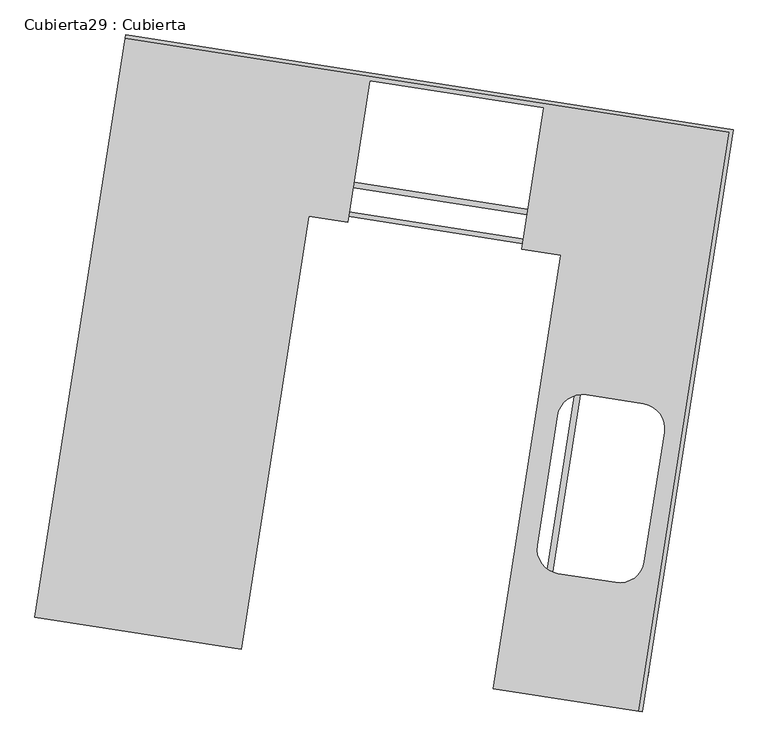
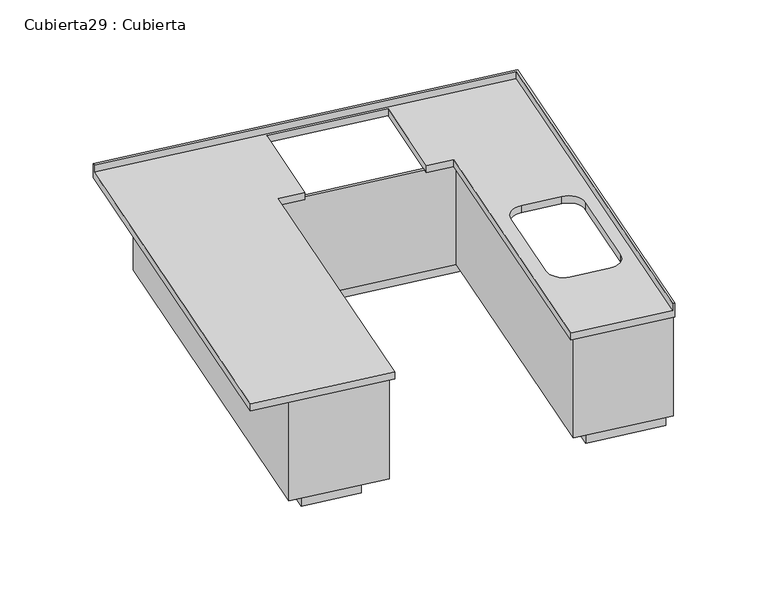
"""IFC4 building model written with IfcOpenShell, lengths in millimetres: furniture geometry, Cubierta29 : Cubierta."""

from ifc_helpers import new_model, si_unit, frame, origin, place, context, project, spatial, polyline, circle_curve, outline, extrude, source, transform, mapped, element, save
from ifc_brep_helpers import plane_surface, revolved_surface, advanced_brep


def cubierta29_cubierta_24a9afea(model_context):
    return source(origin(), model_context, "Body", "SolidModel", [
        extrude(outline(polyline([(-32353.0182652, -76038.1032735), (-32061.939608, -74170.6523073), (-33445.2366403, -73955.038484), (-33736.3152974, -75822.4894504), (-34106.8412842, -75764.7357484), (-33738.75769, -73403.2501277), (-33714.0559573, -73407.1003745), (-34078.2893047, -75743.8842625), (-33757.1667832, -75793.9374708), (-33466.0881262, -73926.4865045), (-32033.3876284, -74149.8008214), (-32324.4662857, -76017.2517877), (-31855.1333645, -76090.4064776), (-31858.9836113, -76115.1082103), (-32353.0182652, -76038.1032735)])), frame((0.0, 0.0, 12800.0), z_axis=(0.0, 0.0, 1.0), x_axis=(1.0, 0.0, 0.0)), (0.0, 0.0, 1.0), 150.0),
        extrude(outline(polyline([(-33632.057868, -75965.2493482), (-34249.601182, -75868.9931777), (-33862.2663536, -73383.9988935), (-33842.5049674, -73387.0790909), (-34226.7595984, -75852.311989), (-33648.7390567, -75942.4077646), (-33357.6603996, -74074.9567982), (-32181.8579221, -74258.228548), (-32472.9365794, -76125.6795143), (-31875.1546481, -76218.8554879), (-31878.2348456, -76238.6168741), (-32495.7781631, -76142.360703), (-32204.6995058, -74274.9097367), (-33340.9792109, -74097.7983818), (-33632.057868, -75965.2493482)])), frame((0.0, 0.0, 12950.0), z_axis=(0.0, 0.0, 1.0), x_axis=(1.0, 0.0, 0.0)), (0.0, 0.0, 1.0), 720.0),
        advanced_brep(
        [(-34500.4687559, -75855.192442, 13720.0), (-33611.2063821, -75993.8013277, 13720.0), (-33320.1277251, -74126.3503614, 13720.0), (-33152.1559425, -74152.5320399, 13720.0), (-33057.1726711, -73543.1551667, 13720.0), (-32306.2399965, -73660.2026707, 13720.0), (-32401.2232679, -74269.579544, 13720.0), (-32233.2514855, -74295.7612225, 13720.0), (-32524.3301425, -76163.2121888, 13720.0), (-31896.906132, -76261.0084585, 13720.0), (-31508.031205, -73766.1334813, 13720.0), (-34111.5938289, -73360.3174647, 13720.0), (-32333.8733798, -75545.1707633, 13720.0), (-32246.8578012, -74986.9116039, 13720.0), (-32124.6553287, -74897.6672444, 13720.0), (-31877.6380015, -74936.1697128, 13720.0), (-31788.3936419, -75058.3721853, 13720.0), (-31875.4092206, -75616.6313447, 13720.0), (-31997.6116931, -75705.8757043, 13720.0), (-32244.6290203, -75667.3732359, 13720.0), (-34109.2836808, -73345.4964249, 13670.0), (-31490.9000173, -73753.6225897, 13670.0), (-31882.0850924, -76263.3186066, 13670.0), (-32524.3301425, -76163.2121888, 13670.0), (-32233.2514855, -74295.7612225, 13670.0), (-32401.2232679, -74269.579544, 13670.0), (-32306.2399965, -73660.2026707, 13670.0), (-33057.1726711, -73543.1551667, 13670.0), (-33152.1559425, -74152.5320399, 13670.0), (-33320.1277251, -74126.3503614, 13670.0), (-33611.2063821, -75993.8013277, 13670.0), (-34500.4687559, -75855.192442, 13670.0), (-32333.8733798, -75545.1707633, 13670.0), (-32244.6290203, -75667.3732359, 13670.0), (-31997.6116931, -75705.8757043, 13670.0), (-31875.4092206, -75616.6313447, 13670.0), (-31788.3936419, -75058.3721853, 13670.0), (-31877.6380015, -74936.1697128, 13670.0), (-32124.6553287, -74897.6672444, 13670.0), (-32246.8578012, -74986.9116039, 13670.0), (-34111.5938289, -73360.3174647, 13770.0), (-34109.2836808, -73345.496425, 13770.0), (-31508.031205, -73766.1334813, 13770.0), (-31896.906132, -76261.0084585, 13770.0), (-31882.0850924, -76263.3186066, 13770.0), (-31490.9000173, -73753.6225898, 13770.0)],
        [
            (0, 1),
            (1, 2),
            (2, 3),
            (3, 4),
            (4, 5),
            (5, 6),
            (6, 7),
            (7, 8),
            (8, 9),
            (9, 10),
            (10, 11),
            (11, 0),
            (12, 13),
            (13, 14, circle_curve(frame((-32141.1343852, -75003.3906604, 13720.0), z_axis=(0.0, 0.0, -1.0), x_axis=(-0.15400987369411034, -0.9880693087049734, 0.0)), 107.0)),
            (14, 15),
            (15, 16, circle_curve(frame((-31894.117058, -75041.8931288, 13720.0), z_axis=(0.0, 0.0, -1.0), x_axis=(-0.15400987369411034, -0.9880693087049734, 0.0)), 107.0)),
            (16, 17),
            (17, 18, circle_curve(frame((-31981.1326366, -75600.1522882, 13720.0), z_axis=(0.0, 0.0, -1.0), x_axis=(-0.15400987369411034, -0.9880693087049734, 0.0)), 107.0)),
            (18, 19),
            (19, 12, circle_curve(frame((-32228.1499638, -75561.6498198, 13720.0), z_axis=(0.0, 0.0, -1.0), x_axis=(-0.15400987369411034, -0.9880693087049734, 0.0)), 107.0)),
            (20, 21),
            (21, 22),
            (22, 23),
            (23, 24),
            (24, 25),
            (25, 26),
            (26, 27),
            (27, 28),
            (28, 29),
            (29, 30),
            (30, 31),
            (31, 20),
            (32, 33, circle_curve(frame((-32228.1499638, -75561.6498198, 13670.0), z_axis=(0.0, 0.0, 1.0), x_axis=(-0.15400987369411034, -0.9880693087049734, 0.0)), 107.0)),
            (33, 34),
            (34, 35, circle_curve(frame((-31981.1326366, -75600.1522882, 13670.0), z_axis=(0.0, 0.0, 1.0), x_axis=(-0.15400987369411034, -0.9880693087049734, 0.0)), 107.0)),
            (35, 36),
            (36, 37, circle_curve(frame((-31894.117058, -75041.8931288, 13670.0), z_axis=(0.0, 0.0, 1.0), x_axis=(-0.15400987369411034, -0.9880693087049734, 0.0)), 107.0)),
            (37, 38),
            (38, 39, circle_curve(frame((-32141.1343852, -75003.3906604, 13670.0), z_axis=(0.0, 0.0, 1.0), x_axis=(-0.15400987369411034, -0.9880693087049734, 0.0)), 107.0)),
            (39, 32),
            (31, 0),
            (11, 40),
            (40, 41),
            (41, 20),
            (40, 42),
            (42, 43),
            (43, 44),
            (44, 45),
            (45, 41),
            (10, 42),
            (45, 21),
            (43, 9),
            (8, 23),
            (22, 44),
            (2, 29),
            (28, 3),
            (1, 30),
            (6, 25),
            (24, 7),
            (5, 26),
            (4, 27),
            (19, 33),
            (32, 12),
            (18, 34),
            (17, 35),
            (16, 36),
            (15, 37),
            (14, 38),
            (13, 39),
        ],
        [
            plane_surface(frame((-34111.5938289, -73360.3174646, 13720.0), z_axis=(0.0, 0.0, 1.0000000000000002), x_axis=(-0.1540098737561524, -0.9880693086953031, 0.0))),
            plane_surface(frame((-34111.5938289, -73360.3174646, 13670.0), z_axis=(0.0, 0.0, -1.0000000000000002), x_axis=(0.1540098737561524, 0.9880693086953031, 0.0))),
            plane_surface(frame((-34109.2836808, -73345.496425, 12820.0), z_axis=(-0.9880693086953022, 0.1540098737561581, 0.0), x_axis=(0.0, 0.0, 1.0))),
            plane_surface(frame((-34111.5938289, -73360.3174647, 13770.0), z_axis=(0.0, 0.0, 1.0), x_axis=(0.9880693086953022, -0.15400987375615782, 0.0))),
            plane_surface(frame((-34111.5938289, -73360.3174647, 13720.0), z_axis=(-0.15400987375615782, -0.9880693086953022, 0.0), x_axis=(0.9880693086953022, -0.15400987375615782, 0.0))),
            plane_surface(frame((-34109.2836808, -73345.496425, 13770.0), z_axis=(0.15400987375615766, 0.9880693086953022, 0.0), x_axis=(0.9880693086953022, -0.15400987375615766, 0.0))),
            plane_surface(frame((-31882.0850924, -76263.3186066, 12820.0), z_axis=(-0.15400987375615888, -0.9880693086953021, 0.0), x_axis=(0.0, 0.0, 1.0))),
            plane_surface(frame((-33320.1277251, -74126.3503614, 13720.0), z_axis=(-0.15400987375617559, -0.9880693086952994, 0.0), x_axis=(0.0, 0.0, -1.0))),
            plane_surface(frame((-33611.2063821, -75993.8013277, 13720.0), z_axis=(0.9880693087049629, -0.1540098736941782, 0.0), x_axis=(0.0, 0.0, -1.0))),
            plane_surface(frame((-34500.4687559, -75855.192442, 13720.0), z_axis=(-0.15400987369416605, -0.9880693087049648, 0.0), x_axis=(0.0, 0.0, -1.0))),
            plane_surface(frame((-32401.2232679, -74269.579544, 13720.0), z_axis=(-0.15400987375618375, -0.9880693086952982, 0.0), x_axis=(0.0, 0.0, -1.0))),
            plane_surface(frame((-32306.2399965, -73660.2026707, 13720.0), z_axis=(-0.9880693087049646, 0.15400987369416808, 0.0), x_axis=(0.0, 0.0, -1.0))),
            plane_surface(frame((-33057.1726711, -73543.1551667, 13720.0), z_axis=(-0.15400987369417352, -0.9880693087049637, 0.0), x_axis=(0.0, 0.0, -1.0))),
            plane_surface(frame((-33152.1559425, -74152.5320399, 13720.0), z_axis=(0.9880693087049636, -0.1540098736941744, 0.0), x_axis=(0.0, 0.0, -1.0))),
            plane_surface(frame((-32233.2514855, -74295.7612225, 13720.0), z_axis=(-0.9880693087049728, 0.1540098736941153, 0.0), x_axis=(0.0, 0.0, -1.0))),
            revolved_surface(polyline([(-32244.62902028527, -75667.37323583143, 13670.0), (-32244.62902028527, -75667.37323583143, 13720.0)]), (-32228.1499638, -75561.6498198, 12820.0), (0.0, 0.0, -0.9999999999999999)),
            plane_surface(frame((-31997.6116931, -75705.8757043, 13720.0), z_axis=(0.1540098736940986, 0.9880693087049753, 0.0), x_axis=(0.0, 0.0, -1.0))),
            revolved_surface(polyline([(-31997.61169308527, -75705.87570423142, 13670.0), (-31997.61169308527, -75705.87570423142, 13720.0)]), (-31981.1326366, -75600.1522882, 12820.0), (0.0, 0.0, -0.9999999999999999)),
            plane_surface(frame((-31788.3936419, -75058.3721853, 13720.0), z_axis=(-0.9880693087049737, 0.15400987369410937, 0.0), x_axis=(0.0, 0.0, -1.0))),
            revolved_surface(polyline([(-31910.59611448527, -75147.61654483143, 13670.0), (-31910.59611448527, -75147.61654483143, 13720.0)]), (-31894.117058, -75041.8931288, 12820.0), (0.0, 0.0, -0.9999999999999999)),
            plane_surface(frame((-32124.6553287, -74897.6672444, 13720.0), z_axis=(-0.15400987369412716, -0.9880693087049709, 0.0), x_axis=(0.0, 0.0, -1.0))),
            revolved_surface(polyline([(-32157.61344168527, -75109.11407643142, 13670.0), (-32157.61344168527, -75109.11407643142, 13720.0)]), (-32141.1343852, -75003.3906604, 12820.0), (0.0, 0.0, -0.9999999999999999)),
            plane_surface(frame((-32333.8733798, -75545.1707633, 13720.0), z_axis=(0.988069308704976, -0.15400987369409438, 0.0), x_axis=(0.0, 0.0, -1.0))),
            plane_surface(frame((-31508.031205, -73766.1334813, 13720.0), z_axis=(-0.9880693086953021, 0.15400987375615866, 0.0), x_axis=(-0.15400987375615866, -0.9880693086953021, 0.0))),
            plane_surface(frame((-31490.9000173, -73753.6225898, 13770.0), z_axis=(0.9880693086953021, -0.15400987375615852, 0.0), x_axis=(-0.15400987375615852, -0.9880693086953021, 0.0))),
        ],
        [
            (0, [[1, 2, 3, 4, 5, 6, 7, 8, 9, 10, 11, 12], [13, 14, 15, 16, 17, 18, 19, 20]]),
            (1, [[21, 22, 23, 24, 25, 26, 27, 28, 29, 30, 31, 32], [33, 34, 35, 36, 37, 38, 39, 40]]),
            (2, [[-32, 41, -12, 42, 43, 44]]),
            (3, [[-43, 45, 46, 47, 48, 49]]),
            (4, [[-42, -11, 50, -45]]),
            (5, [[-44, -49, 51, -21]]),
            (6, [[-47, 52, -9, 53, -23, 54]]),
            (7, [[-3, 55, -29, 56]]),
            (8, [[-2, 57, -30, -55]]),
            (9, [[-1, -41, -31, -57]]),
            (10, [[-7, 58, -25, 59]]),
            (11, [[-6, 60, -26, -58]]),
            (12, [[-5, 61, -27, -60]]),
            (13, [[-4, -56, -28, -61]]),
            (14, [[-8, -59, -24, -53]]),
            (15, [[-20, 62, -33, 63]]),
            (16, [[-19, 64, -34, -62]]),
            (17, [[-18, 65, -35, -64]]),
            (18, [[-17, 66, -36, -65]]),
            (19, [[-16, 67, -37, -66]]),
            (20, [[-15, 68, -38, -67]]),
            (21, [[-14, 69, -39, -68]]),
            (22, [[-13, -63, -40, -69]]),
            (23, [[-46, -50, -10, -52]]),
            (24, [[-51, -48, -54, -22]]),
        ],
    ),
    ])


if __name__ == "__main__":
    model = new_model("IFC4")
    model_context = context("Model", 3, world=origin())
    ifc_project = project(units=[si_unit("LENGTHUNIT", "METRE", prefix="MILLI")], contexts=[model_context])
    site = spatial("IfcSite", under=ifc_project)
    building = spatial("IfcBuilding", under=site)
    placement = place(None, origin())
    cubierta29_cubierta_shape = cubierta29_cubierta_24a9afea(model_context)
    element("IfcFurniture", 1, ObjectType="Cubierta29 : Cubierta", at=placement, inside=building, context=model_context, shape_type="MappedRepresentation", body=[
        mapped(cubierta29_cubierta_shape, transform((0.0, 0.0, 0.0), x_axis=(1.0, 0.0, 0.0), y_axis=(0.0, 1.0, 0.0), z_axis=(0.0, 0.0, 1.0))),
    ])
    save(model, "model.ifc")
